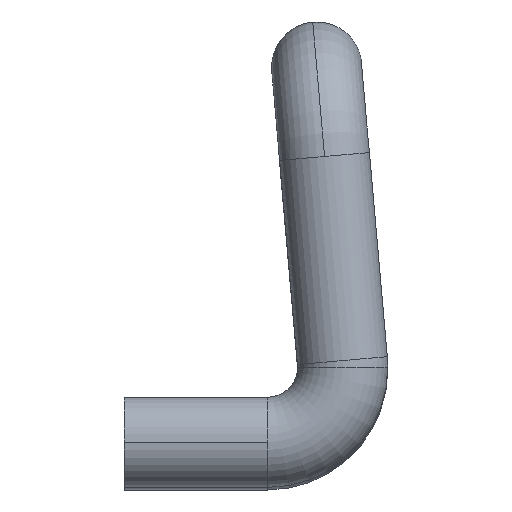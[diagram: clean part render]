
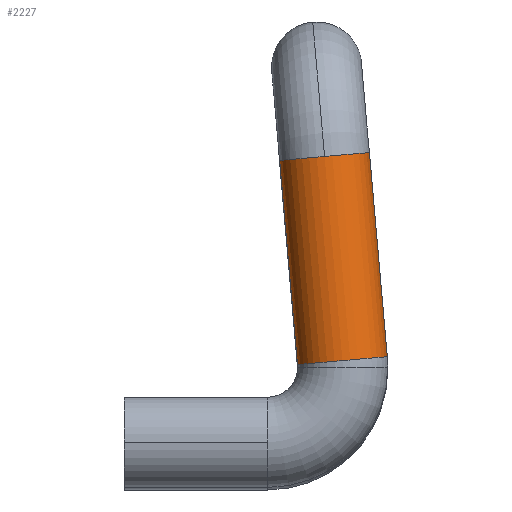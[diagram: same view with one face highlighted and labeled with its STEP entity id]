
A CAD part, top view. The second image highlights one B-rep face of the part: STEP entity #2227.
In plain terms, the highlighted cylindrical face has radius 6 mm (diameter 12 mm), a partial arc.
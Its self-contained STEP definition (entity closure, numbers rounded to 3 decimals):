
#788 = ORIENTED_EDGE ( 'NONE', *, *, #2048, .T. ) ;
#793 = ORIENTED_EDGE ( 'NONE', *, *, #816, .F. ) ;
#816 = EDGE_CURVE ( 'NONE', #1914, #2016, #2580, .T. ) ;
#819 = EDGE_CURVE ( 'NONE', #2233, #2044, #2585, .T. ) ;
#1914 = VERTEX_POINT ( 'NONE', #7532 ) ;
#1926 = EDGE_CURVE ( 'NONE', #1942, #1914, #7557, .T. ) ;
#1942 = VERTEX_POINT ( 'NONE', #7652 ) ;
#2016 = VERTEX_POINT ( 'NONE', #7645 ) ;
#2044 = VERTEX_POINT ( 'NONE', #7610 ) ;
#2048 = EDGE_CURVE ( 'NONE', #2044, #2016, #7678, .T. ) ;
#2217 = ORIENTED_EDGE ( 'NONE', *, *, #819, .T. ) ;
#2221 = EDGE_LOOP ( 'NONE', ( #2222, #2224, #2217, #788, #793 ) ) ;
#2222 = ORIENTED_EDGE ( 'NONE', *, *, #1926, .F. ) ;
#2224 = ORIENTED_EDGE ( 'NONE', *, *, #2230, .T. ) ;
#2227 = ADVANCED_FACE ( 'NONE', ( #8035 ), #8029, .T. ) ;
#2230 = EDGE_CURVE ( 'NONE', #1942, #2233, #8062, .T. ) ;
#2233 = VERTEX_POINT ( 'NONE', #8070 ) ;
#2514 = CARTESIAN_POINT ( 'NONE',  ( 26.671, 38.055, 200. ) ) ;
#2579 = CARTESIAN_POINT ( 'NONE',  ( 23.072, 10.349, 200. ) ) ;
#2580 = LINE ( 'NONE', #2579, #2757 ) ;
#2585 = CIRCLE ( 'NONE', #2767, 6. ) ;
#2749 = DIRECTION ( 'NONE',  ( 0., 0., 1. ) ) ;
#2753 = DIRECTION ( 'NONE',  ( 0.087, -0.996, 0. ) ) ;
#2756 = DIRECTION ( 'NONE',  ( -0.087, 0.996, 0. ) ) ;
#2757 = VECTOR ( 'NONE', #2756, 1000. ) ;
#2767 = AXIS2_PLACEMENT_3D ( 'NONE', #2514, #2753, #2749 ) ;
#7532 = CARTESIAN_POINT ( 'NONE',  ( 23.072, 10.349, 200. ) ) ;
#7557 = CIRCLE ( 'NONE', #7594, 6. ) ;
#7567 = CARTESIAN_POINT ( 'NONE',  ( 29.049, 10.872, 200. ) ) ;
#7592 = DIRECTION ( 'NONE',  ( 0., 0., 1. ) ) ;
#7593 = DIRECTION ( 'NONE',  ( 0.087, -0.996, 0. ) ) ;
#7594 = AXIS2_PLACEMENT_3D ( 'NONE', #7567, #7593, #7592 ) ;
#7610 = CARTESIAN_POINT ( 'NONE',  ( 26.671, 38.055, 206. ) ) ;
#7643 = AXIS2_PLACEMENT_3D ( 'NONE', #7650, #7676, #7662 ) ;
#7645 = CARTESIAN_POINT ( 'NONE',  ( 20.693, 37.532, 200. ) ) ;
#7650 = CARTESIAN_POINT ( 'NONE',  ( 26.671, 38.055, 200. ) ) ;
#7652 = CARTESIAN_POINT ( 'NONE',  ( 35.026, 11.394, 200. ) ) ;
#7662 = DIRECTION ( 'NONE',  ( 0., 0., 1. ) ) ;
#7676 = DIRECTION ( 'NONE',  ( 0.087, -0.996, 0. ) ) ;
#7678 = CIRCLE ( 'NONE', #7643, 6. ) ;
#8022 = AXIS2_PLACEMENT_3D ( 'NONE', #8067, #8066, #8065 ) ;
#8029 = CYLINDRICAL_SURFACE ( 'NONE', #8022, 6. ) ;
#8035 = FACE_OUTER_BOUND ( 'NONE', #2221, .T. ) ;
#8055 = DIRECTION ( 'NONE',  ( -0.087, 0.996, 0. ) ) ;
#8056 = VECTOR ( 'NONE', #8055, 1000. ) ;
#8057 = CARTESIAN_POINT ( 'NONE',  ( 35.026, 11.394, 200. ) ) ;
#8062 = LINE ( 'NONE', #8057, #8056 ) ;
#8065 = DIRECTION ( 'NONE',  ( -0.996, -0.087, 0. ) ) ;
#8066 = DIRECTION ( 'NONE',  ( -0.087, 0.996, 0. ) ) ;
#8067 = CARTESIAN_POINT ( 'NONE',  ( 29.049, 10.872, 200. ) ) ;
#8070 = CARTESIAN_POINT ( 'NONE',  ( 32.648, 38.578, 200. ) ) ;
